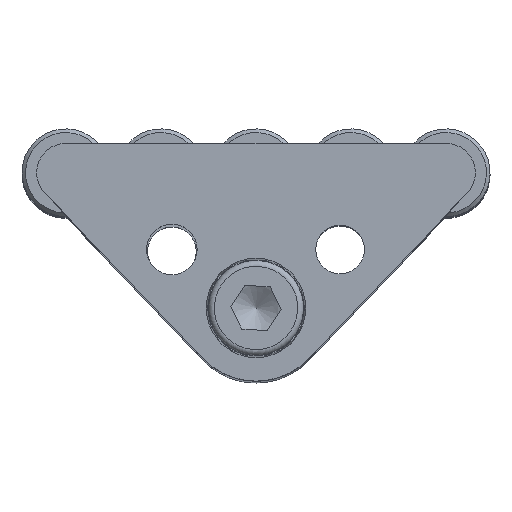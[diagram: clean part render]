
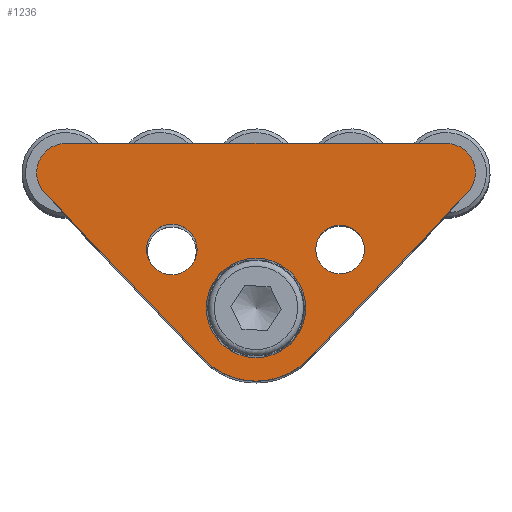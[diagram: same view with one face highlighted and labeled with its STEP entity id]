
A CAD part, top view. The second image highlights one B-rep face of the part: STEP entity #1236.
In plain terms, the highlighted planar face has unit normal (0, 0, 1).
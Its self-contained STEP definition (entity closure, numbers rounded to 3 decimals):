
#410=FACE_BOUND('',#546,.T.);
#411=FACE_BOUND('',#547,.T.);
#412=FACE_BOUND('',#548,.T.);
#432=PLANE('',#1467);
#473=FACE_OUTER_BOUND('',#545,.T.);
#545=EDGE_LOOP('',(#1047,#1048,#1049,#1050,#1051,#1052));
#546=EDGE_LOOP('',(#1053));
#547=EDGE_LOOP('',(#1054));
#548=EDGE_LOOP('',(#1055));
#610=LINE('',#2196,#664);
#613=LINE('',#2204,#667);
#617=LINE('',#2212,#671);
#664=VECTOR('',#1732,10.);
#667=VECTOR('',#1741,10.);
#671=VECTOR('',#1751,10.);
#704=CIRCLE('',#1420,6.8);
#707=CIRCLE('',#1425,3.456);
#709=CIRCLE('',#1428,3.324);
#726=CIRCLE('',#1459,4.);
#727=CIRCLE('',#1462,4.);
#728=CIRCLE('',#1465,10.);
#763=VERTEX_POINT('',#2113);
#766=VERTEX_POINT('',#2122);
#768=VERTEX_POINT('',#2128);
#788=VERTEX_POINT('',#2189);
#789=VERTEX_POINT('',#2190);
#790=VERTEX_POINT('',#2195);
#791=VERTEX_POINT('',#2199);
#792=VERTEX_POINT('',#2203);
#793=VERTEX_POINT('',#2207);
#842=EDGE_CURVE('',#763,#763,#704,.T.);
#846=EDGE_CURVE('',#766,#766,#707,.T.);
#849=EDGE_CURVE('',#768,#768,#709,.T.);
#876=EDGE_CURVE('',#788,#789,#726,.T.);
#879=EDGE_CURVE('',#789,#790,#610,.T.);
#881=EDGE_CURVE('',#790,#791,#727,.T.);
#883=EDGE_CURVE('',#791,#792,#613,.T.);
#885=EDGE_CURVE('',#792,#793,#728,.T.);
#888=EDGE_CURVE('',#793,#788,#617,.T.);
#1047=ORIENTED_EDGE('',*,*,#876,.F.);
#1048=ORIENTED_EDGE('',*,*,#888,.F.);
#1049=ORIENTED_EDGE('',*,*,#885,.F.);
#1050=ORIENTED_EDGE('',*,*,#883,.F.);
#1051=ORIENTED_EDGE('',*,*,#881,.F.);
#1052=ORIENTED_EDGE('',*,*,#879,.F.);
#1053=ORIENTED_EDGE('',*,*,#842,.T.);
#1054=ORIENTED_EDGE('',*,*,#846,.T.);
#1055=ORIENTED_EDGE('',*,*,#849,.T.);
#1236=ADVANCED_FACE('',(#473,#410,#411,#412),#432,.T.);
#1420=AXIS2_PLACEMENT_3D('',#2114,#1636,#1637);
#1425=AXIS2_PLACEMENT_3D('',#2123,#1647,#1648);
#1428=AXIS2_PLACEMENT_3D('',#2129,#1654,#1655);
#1459=AXIS2_PLACEMENT_3D('',#2191,#1726,#1727);
#1462=AXIS2_PLACEMENT_3D('',#2200,#1736,#1737);
#1465=AXIS2_PLACEMENT_3D('',#2208,#1745,#1746);
#1467=AXIS2_PLACEMENT_3D('',#2213,#1752,#1753);
#1636=DIRECTION('center_axis',(0.,0.,
-1.));
#1637=DIRECTION('ref_axis',(-1.,0.,0.));
#1647=DIRECTION('center_axis',(0.,0.,
-1.));
#1648=DIRECTION('ref_axis',(1.,0.,0.));
#1654=DIRECTION('center_axis',(0.,0.,
-1.));
#1655=DIRECTION('ref_axis',(1.,0.,0.));
#1726=DIRECTION('center_axis',(0.,0.,-1.));
#1727=DIRECTION('ref_axis',(0.,-1.,0.));
#1732=DIRECTION('',(1.,0.,0.));
#1736=DIRECTION('center_axis',(0.,0.,-1.));
#1737=DIRECTION('ref_axis',(-0.723,0.691,0.));
#1741=DIRECTION('',(-0.691,-0.723,0.));
#1745=DIRECTION('center_axis',(0.,0.,-1.));
#1746=DIRECTION('ref_axis',(0.723,0.691,0.));
#1751=DIRECTION('',(-0.691,0.723,0.));
#1752=DIRECTION('center_axis',(0.,0.,
1.));
#1753=DIRECTION('ref_axis',(1.,0.,0.));
#2113=CARTESIAN_POINT('',(5.8,-7.5,4.));
#2114=CARTESIAN_POINT('Origin',(-1.,-7.5,4.));
#2122=CARTESIAN_POINT('',(-15.956,0.5,4.));
#2123=CARTESIAN_POINT('Origin',(-12.5,0.5,4.));
#2128=CARTESIAN_POINT('',(7.177,0.5,4.));
#2129=CARTESIAN_POINT('Origin',(10.5,0.5,4.));
#2189=CARTESIAN_POINT('',(-29.89,8.235,4.));
#2190=CARTESIAN_POINT('',(-27.,15.,4.));
#2191=CARTESIAN_POINT('Origin',(-27.,11.,4.));
#2195=CARTESIAN_POINT('',(25.,15.,4.));
#2196=CARTESIAN_POINT('',(-27.,15.,4.));
#2199=CARTESIAN_POINT('',(27.89,8.235,4.));
#2200=CARTESIAN_POINT('Origin',(25.,11.,4.));
#2203=CARTESIAN_POINT('',(6.226,-14.412,4.));
#2204=CARTESIAN_POINT('',(27.89,8.235,4.));
#2207=CARTESIAN_POINT('',(-8.226,-14.412,4.));
#2208=CARTESIAN_POINT('Origin',(-1.,-7.5,4.));
#2212=CARTESIAN_POINT('',(-8.226,-14.412,4.));
#2213=CARTESIAN_POINT('Origin',(-1.,3.688,4.));
